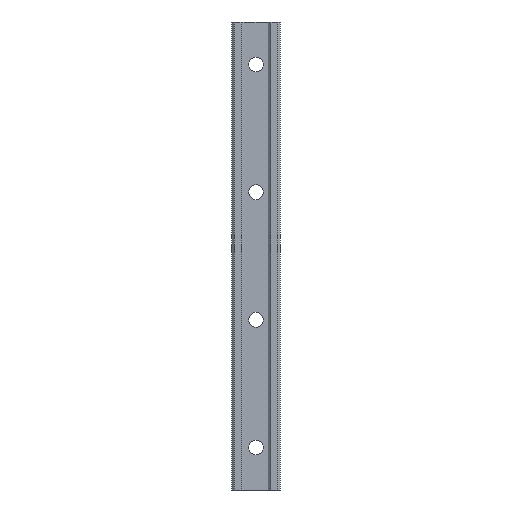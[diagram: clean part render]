
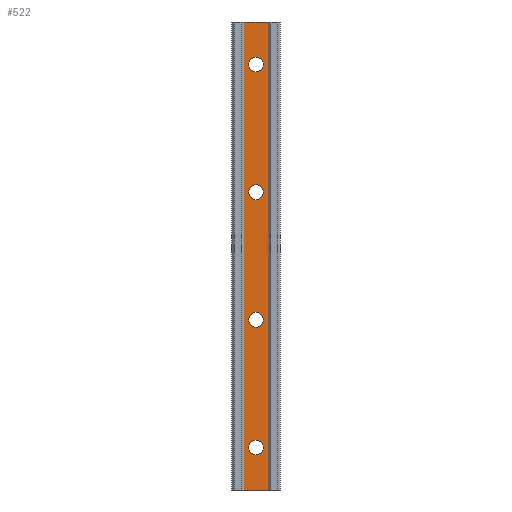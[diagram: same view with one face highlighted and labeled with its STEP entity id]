
A CAD part, front view. The second image highlights one B-rep face of the part: STEP entity #522.
In plain terms, the highlighted planar face has unit normal (0, -1, 0).
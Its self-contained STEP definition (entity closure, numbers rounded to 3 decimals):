
#13 = DIRECTION ( 'NONE',  ( 0., 1., 0. ) ) ;
#14 = CIRCLE ( 'NONE', #661, 3.5 ) ;
#17 = VERTEX_POINT ( 'NONE', #100 ) ;
#23 = DIRECTION ( 'NONE',  ( 0., 1., 0. ) ) ;
#37 = DIRECTION ( 'NONE',  ( 0., 1., 0. ) ) ;
#50 = ORIENTED_EDGE ( 'NONE', *, *, #1448, .T. ) ;
#54 = CARTESIAN_POINT ( 'NONE',  ( -5.75, 1.25, 110. ) ) ;
#69 = EDGE_CURVE ( 'NONE', #917, #457, #722, .T. ) ;
#77 = CARTESIAN_POINT ( 'NONE',  ( 0., 1.25, -93.5 ) ) ;
#81 = FACE_OUTER_BOUND ( 'NONE', #841, .T. ) ;
#86 = DIRECTION ( 'NONE',  ( 0., 0., 1. ) ) ;
#100 = CARTESIAN_POINT ( 'NONE',  ( -5.75, 1.25, -110. ) ) ;
#106 = VERTEX_POINT ( 'NONE', #1299 ) ;
#113 = ORIENTED_EDGE ( 'NONE', *, *, #180, .F. ) ;
#134 = CARTESIAN_POINT ( 'NONE',  ( 0., 1.25, -30. ) ) ;
#137 = CARTESIAN_POINT ( 'NONE',  ( -5.75, 1.25, 110. ) ) ;
#139 = CARTESIAN_POINT ( 'NONE',  ( -5.75, 1.25, -110. ) ) ;
#158 = ORIENTED_EDGE ( 'NONE', *, *, #69, .T. ) ;
#160 = CIRCLE ( 'NONE', #1033, 3.5 ) ;
#180 = EDGE_CURVE ( 'NONE', #17, #773, #1470, .T. ) ;
#187 = EDGE_CURVE ( 'NONE', #648, #1355, #14, .T. ) ;
#189 = AXIS2_PLACEMENT_3D ( 'NONE', #1296, #1055, #1282 ) ;
#199 = CARTESIAN_POINT ( 'NONE',  ( 0., 1.25, 30. ) ) ;
#206 = DIRECTION ( 'NONE',  ( 0., 1., 0. ) ) ;
#210 = CARTESIAN_POINT ( 'NONE',  ( -5.75, 1.25, -110. ) ) ;
#216 = FACE_BOUND ( 'NONE', #550, .T. ) ;
#218 = EDGE_CURVE ( 'NONE', #497, #987, #1143, .T. ) ;
#243 = VERTEX_POINT ( 'NONE', #496 ) ;
#248 = EDGE_CURVE ( 'NONE', #457, #917, #1295, .T. ) ;
#251 = CARTESIAN_POINT ( 'NONE',  ( 0., 1.25, -90. ) ) ;
#252 = AXIS2_PLACEMENT_3D ( 'NONE', #599, #37, #843 ) ;
#285 = CARTESIAN_POINT ( 'NONE',  ( 0., 1.25, 26.5 ) ) ;
#289 = VECTOR ( 'NONE', #492, 1000. ) ;
#350 = CARTESIAN_POINT ( 'NONE',  ( 0., 1.25, 30. ) ) ;
#366 = DIRECTION ( 'NONE',  ( 0., 0., 1. ) ) ;
#384 = AXIS2_PLACEMENT_3D ( 'NONE', #504, #510, #1100 ) ;
#417 = ORIENTED_EDGE ( 'NONE', *, *, #1113, .T. ) ;
#442 = CARTESIAN_POINT ( 'NONE',  ( 0., 1.25, 93.5 ) ) ;
#447 = DIRECTION ( 'NONE',  ( 0., 0., 1. ) ) ;
#457 = VERTEX_POINT ( 'NONE', #442 ) ;
#492 = DIRECTION ( 'NONE',  ( -1., 0., 0. ) ) ;
#496 = CARTESIAN_POINT ( 'NONE',  ( 5.75, 1.25, 110. ) ) ;
#497 = VERTEX_POINT ( 'NONE', #1455 ) ;
#499 = EDGE_CURVE ( 'NONE', #638, #106, #160, .T. ) ;
#501 = DIRECTION ( 'NONE',  ( 0., 0., 1. ) ) ;
#504 = CARTESIAN_POINT ( 'NONE',  ( 0., 1.25, 90. ) ) ;
#510 = DIRECTION ( 'NONE',  ( 0., 1., 0. ) ) ;
#522 = ADVANCED_FACE ( 'NONE', ( #689, #1330, #902, #216, #81 ), #849, .F. ) ;
#536 = CARTESIAN_POINT ( 'NONE',  ( 0., 1.25, 86.5 ) ) ;
#550 = EDGE_LOOP ( 'NONE', ( #1340, #158 ) ) ;
#595 = AXIS2_PLACEMENT_3D ( 'NONE', #944, #1035, #447 ) ;
#599 = CARTESIAN_POINT ( 'NONE',  ( -5.75, 1.25, -110. ) ) ;
#622 = EDGE_LOOP ( 'NONE', ( #50, #957 ) ) ;
#628 = ORIENTED_EDGE ( 'NONE', *, *, #218, .T. ) ;
#638 = VERTEX_POINT ( 'NONE', #285 ) ;
#648 = VERTEX_POINT ( 'NONE', #1180 ) ;
#660 = EDGE_LOOP ( 'NONE', ( #1405, #417 ) ) ;
#661 = AXIS2_PLACEMENT_3D ( 'NONE', #251, #1200, #501 ) ;
#675 = CARTESIAN_POINT ( 'NONE',  ( 5.75, 1.25, -110. ) ) ;
#689 = FACE_BOUND ( 'NONE', #622, .T. ) ;
#699 = DIRECTION ( 'NONE',  ( 0., 0., 1. ) ) ;
#718 = DIRECTION ( 'NONE',  ( 0., 0., 1. ) ) ;
#722 = CIRCLE ( 'NONE', #1511, 3.5 ) ;
#734 = DIRECTION ( 'NONE',  ( 0., 0., 1. ) ) ;
#738 = CIRCLE ( 'NONE', #189, 3.5 ) ;
#773 = VERTEX_POINT ( 'NONE', #54 ) ;
#785 = ORIENTED_EDGE ( 'NONE', *, *, #1049, .T. ) ;
#820 = AXIS2_PLACEMENT_3D ( 'NONE', #134, #1456, #734 ) ;
#826 = DIRECTION ( 'NONE',  ( 0., 0., 1. ) ) ;
#841 = EDGE_LOOP ( 'NONE', ( #1402, #113, #1366, #1485 ) ) ;
#843 = DIRECTION ( 'NONE',  ( 0., 0., 1. ) ) ;
#849 = PLANE ( 'NONE',  #252 ) ;
#895 = EDGE_CURVE ( 'NONE', #1425, #243, #1270, .T. ) ;
#902 = FACE_BOUND ( 'NONE', #660, .T. ) ;
#917 = VERTEX_POINT ( 'NONE', #536 ) ;
#944 = CARTESIAN_POINT ( 'NONE',  ( 0., 1.25, -90. ) ) ;
#955 = LINE ( 'NONE', #137, #289 ) ;
#957 = ORIENTED_EDGE ( 'NONE', *, *, #499, .T. ) ;
#982 = AXIS2_PLACEMENT_3D ( 'NONE', #199, #206, #699 ) ;
#987 = VERTEX_POINT ( 'NONE', #1386 ) ;
#998 = EDGE_CURVE ( 'NONE', #1425, #17, #1499, .T. ) ;
#1005 = CIRCLE ( 'NONE', #595, 3.5 ) ;
#1033 = AXIS2_PLACEMENT_3D ( 'NONE', #350, #23, #718 ) ;
#1035 = DIRECTION ( 'NONE',  ( 0., 1., 0. ) ) ;
#1049 = EDGE_CURVE ( 'NONE', #987, #497, #738, .T. ) ;
#1055 = DIRECTION ( 'NONE',  ( 0., 1., 0. ) ) ;
#1100 = DIRECTION ( 'NONE',  ( 0., 0., 1. ) ) ;
#1113 = EDGE_CURVE ( 'NONE', #1355, #648, #1005, .T. ) ;
#1134 = CARTESIAN_POINT ( 'NONE',  ( 5.75, 1.25, -110. ) ) ;
#1136 = EDGE_LOOP ( 'NONE', ( #628, #785 ) ) ;
#1143 = CIRCLE ( 'NONE', #820, 3.5 ) ;
#1162 = VECTOR ( 'NONE', #366, 1000. ) ;
#1180 = CARTESIAN_POINT ( 'NONE',  ( 0., 1.25, -86.5 ) ) ;
#1200 = DIRECTION ( 'NONE',  ( 0., 1., 0. ) ) ;
#1233 = VECTOR ( 'NONE', #1507, 1000. ) ;
#1250 = VECTOR ( 'NONE', #86, 1000. ) ;
#1269 = EDGE_CURVE ( 'NONE', #243, #773, #955, .T. ) ;
#1270 = LINE ( 'NONE', #675, #1250 ) ;
#1282 = DIRECTION ( 'NONE',  ( 0., 0., 1. ) ) ;
#1295 = CIRCLE ( 'NONE', #384, 3.5 ) ;
#1296 = CARTESIAN_POINT ( 'NONE',  ( 0., 1.25, -30. ) ) ;
#1299 = CARTESIAN_POINT ( 'NONE',  ( 0., 1.25, 33.5 ) ) ;
#1330 = FACE_BOUND ( 'NONE', #1136, .T. ) ;
#1340 = ORIENTED_EDGE ( 'NONE', *, *, #248, .T. ) ;
#1355 = VERTEX_POINT ( 'NONE', #77 ) ;
#1366 = ORIENTED_EDGE ( 'NONE', *, *, #998, .F. ) ;
#1386 = CARTESIAN_POINT ( 'NONE',  ( 0., 1.25, -33.5 ) ) ;
#1402 = ORIENTED_EDGE ( 'NONE', *, *, #1269, .T. ) ;
#1405 = ORIENTED_EDGE ( 'NONE', *, *, #187, .T. ) ;
#1412 = CARTESIAN_POINT ( 'NONE',  ( 0., 1.25, 90. ) ) ;
#1425 = VERTEX_POINT ( 'NONE', #1134 ) ;
#1445 = CIRCLE ( 'NONE', #982, 3.5 ) ;
#1448 = EDGE_CURVE ( 'NONE', #106, #638, #1445, .T. ) ;
#1455 = CARTESIAN_POINT ( 'NONE',  ( 0., 1.25, -26.5 ) ) ;
#1456 = DIRECTION ( 'NONE',  ( 0., 1., 0. ) ) ;
#1470 = LINE ( 'NONE', #139, #1162 ) ;
#1485 = ORIENTED_EDGE ( 'NONE', *, *, #895, .T. ) ;
#1499 = LINE ( 'NONE', #210, #1233 ) ;
#1507 = DIRECTION ( 'NONE',  ( -1., 0., 0. ) ) ;
#1511 = AXIS2_PLACEMENT_3D ( 'NONE', #1412, #13, #826 ) ;
